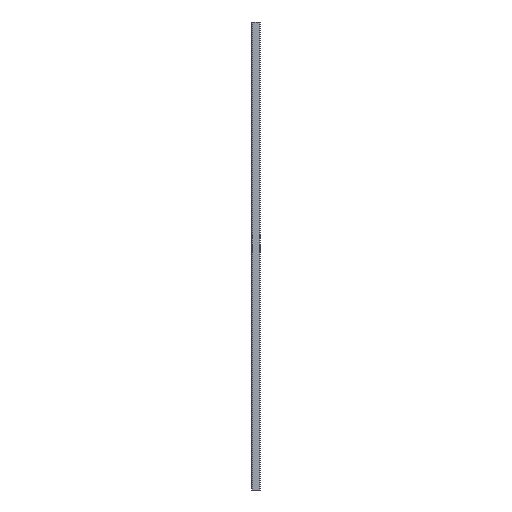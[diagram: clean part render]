
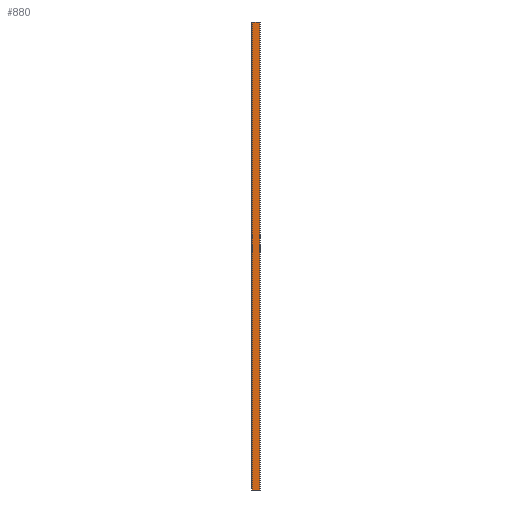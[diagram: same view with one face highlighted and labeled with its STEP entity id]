
A CAD part, left-side view. The second image highlights one B-rep face of the part: STEP entity #880.
In plain terms, the highlighted planar face has unit normal (-1, 0, 0).
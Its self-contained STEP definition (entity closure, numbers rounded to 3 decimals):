
#10 = EDGE_CURVE ( 'NONE', #129, #482, #2534, .T. ) ;
#50 = VECTOR ( 'NONE', #1729, 1000. ) ;
#91 = VECTOR ( 'NONE', #232, 1000. ) ;
#129 = VERTEX_POINT ( 'NONE', #2156 ) ;
#132 = DIRECTION ( 'NONE',  ( 0., 1., 0. ) ) ;
#157 = CARTESIAN_POINT ( 'NONE',  ( -8., 3.2, 0. ) ) ;
#192 = CARTESIAN_POINT ( 'NONE',  ( -8., 12.5, 0. ) ) ;
#204 = CARTESIAN_POINT ( 'NONE',  ( -8., 12.5, 679. ) ) ;
#206 = VECTOR ( 'NONE', #1209, 1000. ) ;
#232 = DIRECTION ( 'NONE',  ( 0., 1., 0. ) ) ;
#282 = AXIS2_PLACEMENT_3D ( 'NONE', #2153, #514, #1515 ) ;
#356 = VERTEX_POINT ( 'NONE', #1268 ) ;
#401 = CARTESIAN_POINT ( 'NONE',  ( -8., 0., 679. ) ) ;
#457 = ORIENTED_EDGE ( 'NONE', *, *, #2158, .F. ) ;
#482 = VERTEX_POINT ( 'NONE', #192 ) ;
#493 = EDGE_CURVE ( 'NONE', #356, #482, #1038, .T. ) ;
#514 = DIRECTION ( 'NONE',  ( -1., 0., 0. ) ) ;
#538 = CARTESIAN_POINT ( 'NONE',  ( -8., 9.3, 679. ) ) ;
#539 = ORIENTED_EDGE ( 'NONE', *, *, #757, .T. ) ;
#567 = EDGE_CURVE ( 'NONE', #1312, #2004, #1475, .T. ) ;
#618 = CARTESIAN_POINT ( 'NONE',  ( -8., 12.5, 679. ) ) ;
#755 = LINE ( 'NONE', #2040, #1854 ) ;
#757 = EDGE_CURVE ( 'NONE', #1675, #129, #2345, .T. ) ;
#773 = ORIENTED_EDGE ( 'NONE', *, *, #1897, .F. ) ;
#880 = ADVANCED_FACE ( 'NONE', ( #1117 ), #1754, .T. ) ;
#947 = EDGE_CURVE ( 'NONE', #1312, #1675, #1862, .T. ) ;
#989 = LINE ( 'NONE', #1381, #1303 ) ;
#1038 = LINE ( 'NONE', #2366, #50 ) ;
#1076 = ORIENTED_EDGE ( 'NONE', *, *, #1673, .T. ) ;
#1117 = FACE_OUTER_BOUND ( 'NONE', #2464, .T. ) ;
#1118 = VECTOR ( 'NONE', #1792, 1000. ) ;
#1209 = DIRECTION ( 'NONE',  ( 0., 0., -1. ) ) ;
#1224 = LINE ( 'NONE', #2081, #206 ) ;
#1240 = VECTOR ( 'NONE', #1266, 1000. ) ;
#1266 = DIRECTION ( 'NONE',  ( 0., -1., 0. ) ) ;
#1268 = CARTESIAN_POINT ( 'NONE',  ( -8., 9.3, 0. ) ) ;
#1303 = VECTOR ( 'NONE', #2451, 1000. ) ;
#1312 = VERTEX_POINT ( 'NONE', #1664 ) ;
#1330 = VERTEX_POINT ( 'NONE', #157 ) ;
#1364 = ORIENTED_EDGE ( 'NONE', *, *, #947, .T. ) ;
#1381 = CARTESIAN_POINT ( 'NONE',  ( -8., 0., 0. ) ) ;
#1467 = VECTOR ( 'NONE', #2321, 1000. ) ;
#1475 = LINE ( 'NONE', #401, #1240 ) ;
#1515 = DIRECTION ( 'NONE',  ( 0., 0., 1. ) ) ;
#1521 = ORIENTED_EDGE ( 'NONE', *, *, #493, .F. ) ;
#1593 = VERTEX_POINT ( 'NONE', #1878 ) ;
#1664 = CARTESIAN_POINT ( 'NONE',  ( -8., 3.2, 679. ) ) ;
#1673 = EDGE_CURVE ( 'NONE', #1330, #1593, #989, .T. ) ;
#1675 = VERTEX_POINT ( 'NONE', #538 ) ;
#1729 = DIRECTION ( 'NONE',  ( 0., 1., 0. ) ) ;
#1754 = PLANE ( 'NONE',  #282 ) ;
#1792 = DIRECTION ( 'NONE',  ( 0., 1., 0. ) ) ;
#1841 = ORIENTED_EDGE ( 'NONE', *, *, #10, .T. ) ;
#1854 = VECTOR ( 'NONE', #132, 1000. ) ;
#1862 = LINE ( 'NONE', #2002, #1118 ) ;
#1878 = CARTESIAN_POINT ( 'NONE',  ( -8., 0., 0. ) ) ;
#1897 = EDGE_CURVE ( 'NONE', #2004, #1593, #1224, .T. ) ;
#1963 = CARTESIAN_POINT ( 'NONE',  ( -8., 0., 679. ) ) ;
#2002 = CARTESIAN_POINT ( 'NONE',  ( -8., 0., 679. ) ) ;
#2004 = VERTEX_POINT ( 'NONE', #1963 ) ;
#2040 = CARTESIAN_POINT ( 'NONE',  ( -8., 0., 0. ) ) ;
#2081 = CARTESIAN_POINT ( 'NONE',  ( -8., 0., 679. ) ) ;
#2153 = CARTESIAN_POINT ( 'NONE',  ( -8., 0., 679. ) ) ;
#2156 = CARTESIAN_POINT ( 'NONE',  ( -8., 12.5, 679. ) ) ;
#2158 = EDGE_CURVE ( 'NONE', #1330, #356, #755, .T. ) ;
#2280 = ORIENTED_EDGE ( 'NONE', *, *, #567, .F. ) ;
#2321 = DIRECTION ( 'NONE',  ( 0., 0., -1. ) ) ;
#2345 = LINE ( 'NONE', #204, #91 ) ;
#2366 = CARTESIAN_POINT ( 'NONE',  ( -8., 0., 0. ) ) ;
#2451 = DIRECTION ( 'NONE',  ( 0., -1., 0. ) ) ;
#2464 = EDGE_LOOP ( 'NONE', ( #457, #1076, #773, #2280, #1364, #539, #1841, #1521 ) ) ;
#2534 = LINE ( 'NONE', #618, #1467 ) ;
